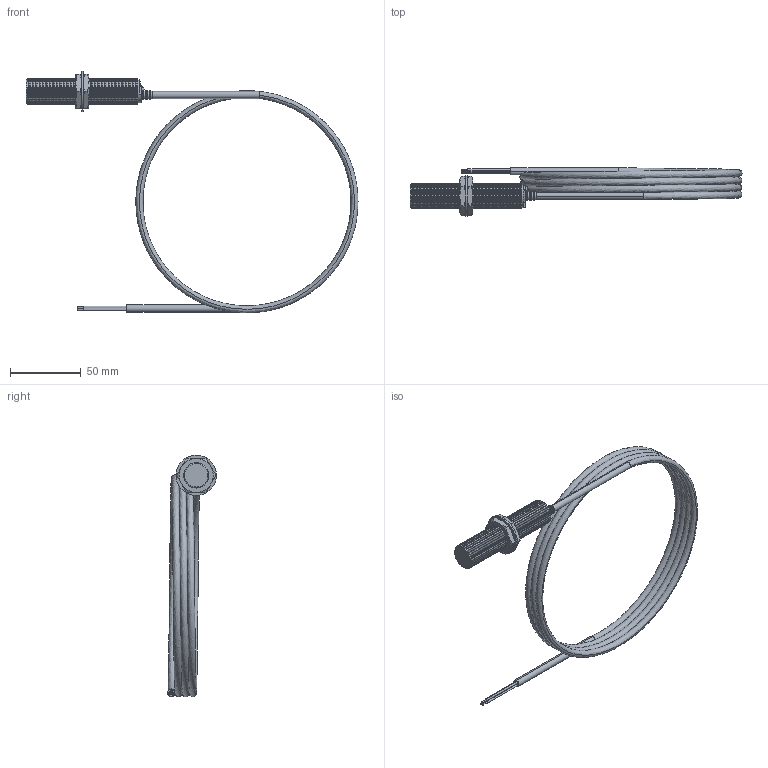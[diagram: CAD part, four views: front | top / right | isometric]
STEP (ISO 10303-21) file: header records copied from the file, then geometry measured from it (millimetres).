
FILE_DESCRIPTION (( 'STEP AP203' ), '1' );
FILE_NAME ('90-29417-060.STEP', '2015-11-15T05:27:19', ( 'Sam' ), ( 'Spade' ), 'SwSTEP 2.0', 'SolidWorks 2002296', '' );
FILE_SCHEMA (( 'CONFIG_CONTROL_DESIGN' ));
Length unit declared in the file: inch
Products named in the file (18): 90-29417-060; Imported41; Imported40; Imported45; Imported44; Imported43; Imported42; Imported48; Imported47; Imported46; Imported51; Imported50; Imported49; Imported55; Imported54; Imported53; Imported52; Imported56
Assembly tree (17 placements, depth 2):
  90-29417-060
    Imported41
    Imported44
    Imported43
    Imported49
    Imported56
    Imported50
    Imported53
    Imported55
    Imported51
    Imported42
    Imported52
    Imported46
    Imported48
    Imported47
    Imported40
    Imported45
    Imported54
Bounding box: 235.35 x 34.58 x 171.27 mm (x, y, z)
Volume: 58663.4 mm3; surface area: 41775.9 mm2
Topology: 17 solids, 17 shells, 715 faces, 1473 edges, 798 vertices
Faces by surface type: cone 372, cylinder 238, plane 98, bspline 7
Entity records: 21469 total; most frequent: CARTESIAN_POINT 4245, DIRECTION 3552, ORIENTED_EDGE 2938, EDGE_CURVE 1469, AXIS2_PLACEMENT_3D 1413, VERTEX_POINT 798, EDGE_LOOP 733, LINE 726
